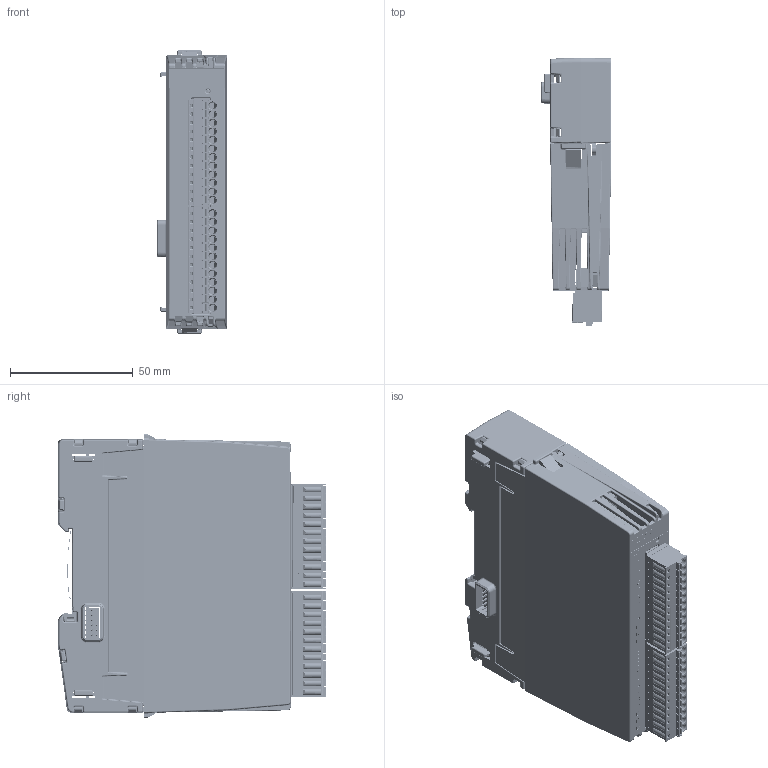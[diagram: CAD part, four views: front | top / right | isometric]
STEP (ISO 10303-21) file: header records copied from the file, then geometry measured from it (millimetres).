
FILE_DESCRIPTION(/* description */ (''),/* implementation_level */ '2;1');
FILE_NAME(/* name */ 'C:\Users\shoma\OneDrive - Brodersen\Project\3D Files\New Design\DI20A\DI20A_Simplified+BackBB21B.stp',/* time_stamp */ '2024-10-15T20:23:31+02:00',/* author */ ('shoma'),/* organization */ (''),/* preprocessor_version */ 'ST-DEVELOPER v19',/* originating_system */ 'Autodesk Inventor 2023',/* authorisation */ '');
FILE_SCHEMA (('AUTOMOTIVE_DESIGN { 1 0 10303 214 3 1 1 }'));
Products named in the file (1): DI20A_Simplified+BackBB21B
Bounding box: 28.9 x 109.39 x 115.5 mm (x, y, z)
Volume: 153432.2 mm3; surface area: 92866 mm2
Topology: 8 solids, 56 shells, 9288 faces, 24587 edges, 15492 vertices
Faces by surface type: plane 5597, cylinder 2391, bspline 860, cone 233, sphere 162, torus 45
Full cylindrical faces by diameter (mm): 0.296 x2, 0.3 x152, 0.457 x2, 0.7 x36, 0.8 x6, 0.85 x24, 0.9 x8, 1.17 x24, 1.2 x24, 1.25 x24, 1.3 x24, 1.4 x4, 1.6 x26, 2.35 x2, 2.5 x1, 3 x1, 3.1 x24, 3.25 x2
Entity records: 320910 total; most frequent: CARTESIAN_POINT 82523, ORIENTED_EDGE 48868, DIRECTION 45401, EDGE_CURVE 24434, LINE 17223, VECTOR 17223, VERTEX_POINT 15492, AXIS2_PLACEMENT_3D 14089
